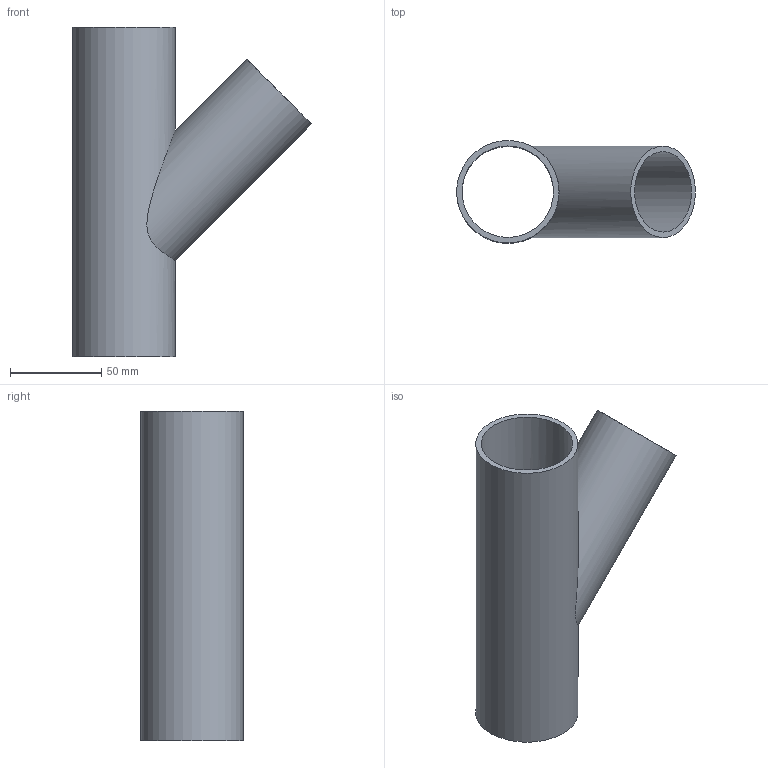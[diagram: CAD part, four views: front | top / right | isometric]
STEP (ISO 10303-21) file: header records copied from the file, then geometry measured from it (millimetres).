
FILE_DESCRIPTION(/* description */ (''),/* implementation_level */ '2;1');
FILE_NAME(/* name */ 'C:\Planerdaten\Export PLA\PRO_101557\stp\363112.stp',/* time_stamp */ '2021-09-30T15:03:52+02:00',/* author */ ('JANAN'),/* organization */ (''),/* preprocessor_version */ 'ST-DEVELOPER v16.13',/* originating_system */ 'Autodesk Inventor 2018',/* authorisation */ '');
FILE_SCHEMA (('AUTOMOTIVE_DESIGN { 1 0 10303 214 3 1 1 }'));
Length unit declared in the file: millimetre
Products named in the file (1): tmp5910.tmp
Bounding box: 130.53 x 56 x 180 mm (x, y, z)
Volume: 122041.1 mm3; surface area: 82747.1 mm2
Topology: 1 solids, 1 shells, 7 faces, 17 edges, 12 vertices
Faces by surface type: cylinder 4, plane 3
Full cylindrical faces by diameter (mm): 44 x1, 50 x2, 56 x1
Entity records: 342 total; most frequent: CARTESIAN_POINT 164, DIRECTION 28, EDGE_LOOP 16, ORIENTED_EDGE 16, AXIS2_PLACEMENT_3D 14, FACE_BOUND 9, VERTEX_POINT 8, EDGE_CURVE 8
